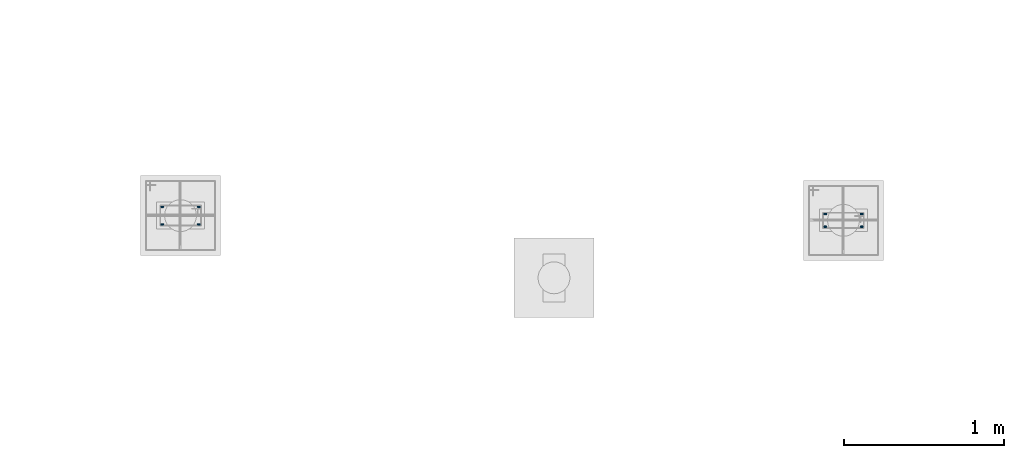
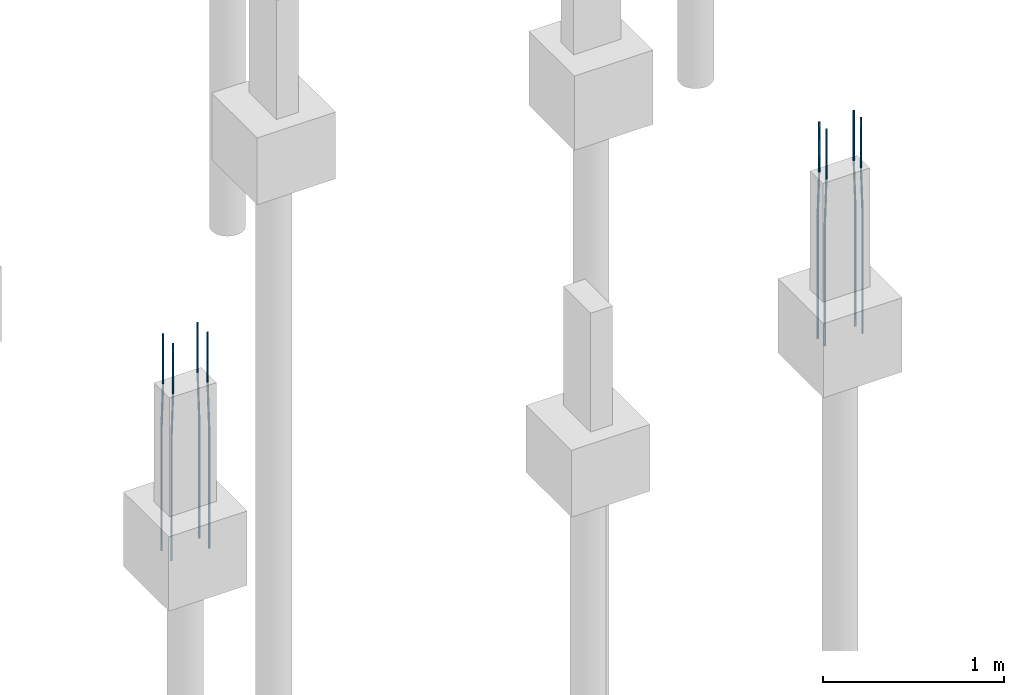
# One storey, part 8 of 119: 8 reinforcing bars.
"""IFC4 building model written with IfcOpenShell, lengths in centimetres."""

from ifc_helpers import new_model, entity, si_unit, derived_unit, frame, origin_with_axes, place, context, project, spatial, element, save


model = new_model("IFC4")

# Units and contexts
model_context = context("Model", 3, precision=1e-05, world=origin_with_axes(), identifier="Body")
ifc_project = project(units=[si_unit("LENGTHUNIT", "METRE", prefix="CENTI"), si_unit("VOLUMEUNIT", "CUBIC_METRE"), si_unit("AREAUNIT", "SQUARE_METRE"), si_unit("POWERUNIT", "WATT"), si_unit("LUMINOUSFLUXUNIT", "LUMEN"), si_unit("ELECTRICCURRENTUNIT", "AMPERE"), si_unit("PRESSUREUNIT", "PASCAL", prefix="KILO"), si_unit("MASSUNIT", "GRAM", prefix="KILO"), si_unit("PLANEANGLEUNIT", "RADIAN"), derived_unit("VOLUMETRICFLOWRATEUNIT", [(si_unit("LENGTHUNIT", "METRE"), 3), (si_unit("TIMEUNIT", "SECOND"), -1)])], contexts=[model_context])

# Site, building, storey
site_placement = place(None, frame((-4000.0, 0.0, 0.0), z_axis=(0.0, 0.0, 1.0), x_axis=(1.0, 0.0, 0.0)))
site = spatial("IfcSite", under=ifc_project, at=site_placement, Name="PADRÃO")
building_placement = place(site_placement, frame((0.0, 0.0, -14.0)))
building = spatial("IfcBuilding", under=site, at=building_placement, Name="CRECHE PRÉ-ESCOLA TIPO 2")
storey_placement = place(building_placement, origin_with_axes())
storey = spatial("IfcBuildingStorey", under=building, at=storey_placement, Name="FUNDAÇÃO", CompositionType="ELEMENT", Elevation=-14.0)

# Reinforcing bars
for number, where, z_axis, x_axis, name in (
    (1, (281.0, 1036.0, 33.3573001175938), (0.0, 0.0, 1.0), (1.0, 0.0, 0.0), "P116 - Longitudinal"),
    (2, (281.0, 1025.0, 33.3573001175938), (0.0, 0.0, 1.0), (1.0, 0.0, 0.0), "P116 - Longitudinal"),
):
    element("IfcReinforcingBar", number, at=place(storey_placement, frame(where, z_axis=z_axis, x_axis=x_axis)), inside=storey, Name=name, BarLength=0.0, CrossSectionArea=7.853981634e-05, NominalDiameter=1.0, PredefinedType="MAIN", context=model_context, shape_type="AdvancedSweptSolid", body=[
        entity("IfcSweptDiskSolid", entity("IfcCompositeCurve", [entity("IfcCompositeCurveSegment", "CONTINUOUS", True, entity("IfcPolyline", [entity("IfcCartesianPoint", [0.5, 0.0, -145.357300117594]), entity("IfcCartesianPoint", [0.5, 0.0, -63.3573001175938])])), entity("IfcCompositeCurveSegment", "CONTINUOUS", True, entity("IfcPolyline", [entity("IfcCartesianPoint", [0.5, 0.0, -63.3573001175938]), entity("IfcCartesianPoint", [-0.5, 0.0, -33.3573001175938])])), entity("IfcCompositeCurveSegment", "CONTINUOUS", True, entity("IfcPolyline", [entity("IfcCartesianPoint", [-0.5, 0.0, -33.3573001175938]), entity("IfcCartesianPoint", [-0.5, 0.0, 0.0])]))], False), 0.5),
    ])
for number, where, z_axis, x_axis, name in (
    (3, (258.0, 1025.0, 33.3573001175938), (0.0, 0.0, 1.0), (1.0, 0.0, 0.0), "P116 - Longitudinal"),
    (4, (258.0, 1036.0, 33.3573001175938), (0.0, 0.0, 1.0), (1.0, 0.0, 0.0), "P116 - Longitudinal"),
    (5, (673.5, 1031.51, 33.3573001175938), (0.0, 0.0, 1.0), (1.0, 0.0, 0.0), "P118 - Longitudinal"),
):
    element("IfcReinforcingBar", number, at=place(storey_placement, frame(where, z_axis=z_axis, x_axis=x_axis)), inside=storey, Name=name, BarLength=0.0, CrossSectionArea=7.853981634e-05, NominalDiameter=1.0, PredefinedType="MAIN", context=model_context, shape_type="AdvancedSweptSolid", body=[
        entity("IfcSweptDiskSolid", entity("IfcCompositeCurve", [entity("IfcCompositeCurveSegment", "CONTINUOUS", True, entity("IfcPolyline", [entity("IfcCartesianPoint", [-0.5, 0.0, -145.357300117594]), entity("IfcCartesianPoint", [-0.5, 0.0, -63.3573001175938])])), entity("IfcCompositeCurveSegment", "CONTINUOUS", True, entity("IfcPolyline", [entity("IfcCartesianPoint", [-0.5, 0.0, -63.3573001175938]), entity("IfcCartesianPoint", [0.5, 0.0, -33.3573001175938])])), entity("IfcCompositeCurveSegment", "CONTINUOUS", True, entity("IfcPolyline", [entity("IfcCartesianPoint", [0.5, 0.0, -33.3573001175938]), entity("IfcCartesianPoint", [0.5, 0.0, 0.0])]))], False), 0.5),
    ])
for number, where, z_axis, x_axis, name in (
    (6, (696.5, 1031.51, 33.3573001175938), (0.0, 0.0, 1.0), (1.0, 0.0, 0.0), "P118 - Longitudinal"),
    (7, (696.5, 1023.51, 33.3573001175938), (0.0, 0.0, 1.0), (1.0, 0.0, 0.0), "P118 - Longitudinal"),
):
    element("IfcReinforcingBar", number, at=place(storey_placement, frame(where, z_axis=z_axis, x_axis=x_axis)), inside=storey, Name=name, BarLength=0.0, CrossSectionArea=7.853981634e-05, NominalDiameter=1.0, PredefinedType="MAIN", context=model_context, shape_type="AdvancedSweptSolid", body=[
        entity("IfcSweptDiskSolid", entity("IfcCompositeCurve", [entity("IfcCompositeCurveSegment", "CONTINUOUS", True, entity("IfcPolyline", [entity("IfcCartesianPoint", [0.5, 0.0, -145.357300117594]), entity("IfcCartesianPoint", [0.5, 0.0, -63.3573001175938])])), entity("IfcCompositeCurveSegment", "CONTINUOUS", True, entity("IfcPolyline", [entity("IfcCartesianPoint", [0.5, 0.0, -63.3573001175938]), entity("IfcCartesianPoint", [-0.5, 0.0, -33.3573001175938])])), entity("IfcCompositeCurveSegment", "CONTINUOUS", True, entity("IfcPolyline", [entity("IfcCartesianPoint", [-0.5, 0.0, -33.3573001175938]), entity("IfcCartesianPoint", [-0.5, 0.0, 0.0])]))], False), 0.5),
    ])
reinforcing_bar_placement = place(storey_placement, frame((673.5, 1023.51, 33.3573001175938), z_axis=(0.0, 0.0, 1.0), x_axis=(1.0, 0.0, 0.0)))
element("IfcReinforcingBar", 8, at=reinforcing_bar_placement, inside=storey, Name="P118 - Longitudinal", BarLength=0.0, CrossSectionArea=7.853981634e-05, NominalDiameter=1.0, PredefinedType="MAIN", context=model_context, shape_type="AdvancedSweptSolid", body=[
    entity("IfcSweptDiskSolid", entity("IfcCompositeCurve", [entity("IfcCompositeCurveSegment", "CONTINUOUS", True, entity("IfcPolyline", [entity("IfcCartesianPoint", [-0.5, 0.0, -145.357300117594]), entity("IfcCartesianPoint", [-0.5, 0.0, -63.3573001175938])])), entity("IfcCompositeCurveSegment", "CONTINUOUS", True, entity("IfcPolyline", [entity("IfcCartesianPoint", [-0.5, 0.0, -63.3573001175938]), entity("IfcCartesianPoint", [0.5, 0.0, -33.3573001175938])])), entity("IfcCompositeCurveSegment", "CONTINUOUS", True, entity("IfcPolyline", [entity("IfcCartesianPoint", [0.5, 0.0, -33.3573001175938]), entity("IfcCartesianPoint", [0.5, 0.0, 0.0])]))], False), 0.5),
])

save(model, "model.ifc")
